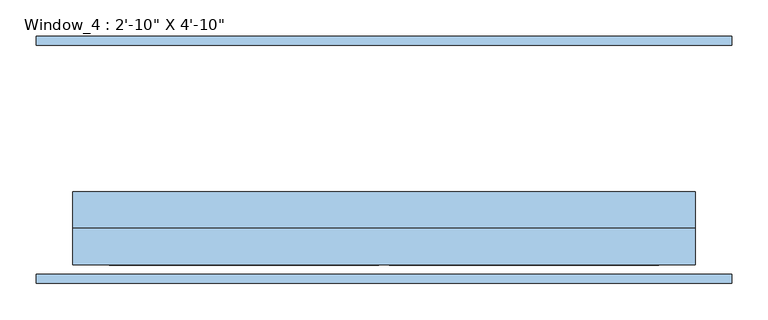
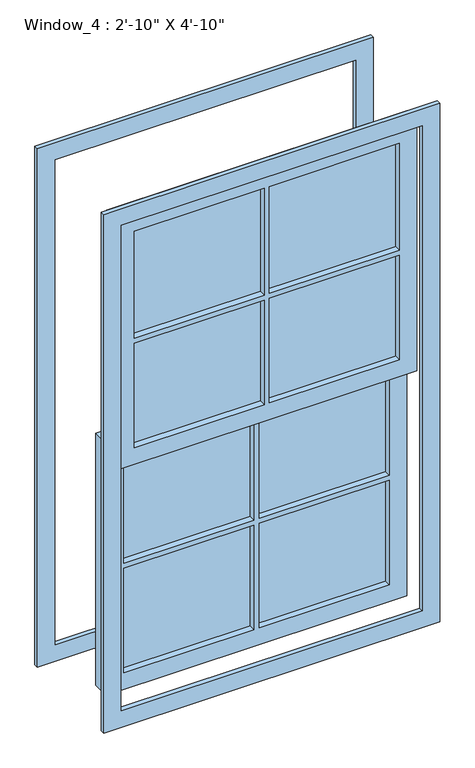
"""IFC4 building model written with IfcOpenShell, lengths in millimetres: window geometry."""

from ifc_helpers import new_model, si_unit, frame, origin, place, context, project, spatial, polyline, outline, extrude, source, transform, mapped, element, save


def window_1576a52d(model_context):
    return source(origin(), model_context, "Body", "SweptSolid", [
        extrude(outline(polyline([(2336.8, -431.8), (1577.975, -431.8), (1577.975, 431.8), (2336.8, 431.8), (2336.8, -431.8)]), holes=[polyline([(2286.0, 7.540625), (2286.0, 381.0), (1961.35625, 381.0), (1961.35625, 7.540625), (2286.0, 7.540625)]), polyline([(1628.775, 7.540625), (1946.275, 7.540625), (1946.275, 381.0), (1628.775, 381.0), (1628.775, 7.540625)]), polyline([(1961.35625, -381.0), (2286.0, -381.0), (2286.0, -7.540625), (1961.35625, -7.540625), (1961.35625, -381.0)]), polyline([(1628.775, -381.0), (1946.275, -381.0), (1946.275, -7.540625), (1628.775, -7.540625), (1628.775, -381.0)])]), frame((0.0, -146.05, 0.0), z_axis=(0.0, 1.0, 0.0), x_axis=(0.0, 0.0, 1.0)), (0.0, 0.0, 1.0), 50.8),
        extrude(outline(polyline([(381.0, -114.3), (381.0, -127.5853592), (7.540625, -127.5853592), (7.540625, -114.3), (381.0, -114.3)])), frame((0.0, 0.0, 1961.35625), z_axis=(0.0, 0.0, 1.0), x_axis=(1.0, 0.0, 0.0)), (0.0, 0.0, 1.0), 324.64375),
        extrude(outline(polyline([(-7.540625, -114.3), (-7.540625, -127.5853592), (-381.0, -127.5853592), (-381.0, -114.3), (-7.540625, -114.3)])), frame((0.0, 0.0, 1961.35625), z_axis=(0.0, 0.0, 1.0), x_axis=(1.0, 0.0, 0.0)), (0.0, 0.0, 1.0), 324.64375),
        extrude(outline(polyline([(381.0, -114.3), (381.0, -127.5853592), (7.540625, -127.5853592), (7.540625, -114.3), (381.0, -114.3)])), frame((0.0, 0.0, 1628.775), z_axis=(0.0, 0.0, 1.0), x_axis=(1.0, 0.0, 0.0)), (0.0, 0.0, 1.0), 317.5),
        extrude(outline(polyline([(-7.540625, -114.3), (-7.540625, -127.5853592), (-381.0, -127.5853592), (-381.0, -114.3), (-7.540625, -114.3)])), frame((0.0, 0.0, 1628.775), z_axis=(0.0, 0.0, 1.0), x_axis=(1.0, 0.0, 0.0)), (0.0, 0.0, 1.0), 317.5),
        extrude(outline(polyline([(7.540625, -76.2), (7.540625, -63.5), (381.0, -63.5), (381.0, -76.2), (7.540625, -76.2)])), frame((0.0, 0.0, 1246.98125), z_axis=(0.0, 0.0, 1.0), x_axis=(1.0, 0.0, 0.0)), (0.0, 0.0, 1.0), 330.99375),
        extrude(outline(polyline([(7.540625, -76.2), (7.540625, -63.5), (381.0, -63.5), (381.0, -76.2), (7.540625, -76.2)])), frame((0.0, 0.0, 914.4), z_axis=(0.0, 0.0, 1.0), x_axis=(1.0, 0.0, 0.0)), (0.0, 0.0, 1.0), 317.5),
        extrude(outline(polyline([(-381.0, -76.2), (-381.0, -63.5), (-7.540625, -63.5), (-7.540625, -76.2), (-381.0, -76.2)])), frame((0.0, 0.0, 1246.98125), z_axis=(0.0, 0.0, 1.0), x_axis=(1.0, 0.0, 0.0)), (0.0, 0.0, 1.0), 330.99375),
        extrude(outline(polyline([(-381.0, -76.2), (-381.0, -63.5), (-7.540625, -63.5), (-7.540625, -76.2), (-381.0, -76.2)])), frame((0.0, 0.0, 914.4), z_axis=(0.0, 0.0, 1.0), x_axis=(1.0, 0.0, 0.0)), (0.0, 0.0, 1.0), 317.5),
        extrude(outline(polyline([(1628.775, -431.8), (863.6, -431.8), (863.6, 431.8), (1628.775, 431.8), (1628.775, -431.8)]), holes=[polyline([(1246.98125, -381.0), (1577.975, -381.0), (1577.975, -7.540625), (1246.98125, -7.540625), (1246.98125, -381.0)]), polyline([(914.4, 7.540625), (1231.9, 7.540625), (1231.9, 381.0), (914.4, 381.0), (914.4, 7.540625)]), polyline([(914.4, -381.0), (1231.9, -381.0), (1231.9, -7.540625), (914.4, -7.540625), (914.4, -381.0)]), polyline([(1577.975, 7.540625), (1577.975, 381.0), (1246.98125, 381.0), (1246.98125, 7.540625), (1577.975, 7.540625)])]), frame((0.0, -95.25, 0.0), z_axis=(0.0, 1.0, 0.0), x_axis=(0.0, 0.0, 1.0)), (0.0, 0.0, 1.0), 50.8),
        extrude(outline(polyline([(812.8, 482.6), (2387.6, 482.6), (2387.6, -482.6), (812.8, -482.6), (812.8, 482.6)]), holes=[polyline([(863.6, 431.8), (863.6, -431.8), (2336.8, -431.8), (2336.8, 431.8), (863.6, 431.8)])]), frame((0.0, 158.75, 0.0), z_axis=(0.0, 1.0, 0.0), x_axis=(0.0, 0.0, 1.0)), (0.0, 0.0, 1.0), 12.7),
        extrude(outline(polyline([(812.8, 482.6), (2387.6, 482.6), (2387.6, -482.6), (812.8, -482.6), (812.8, 482.6)]), holes=[polyline([(863.6, 431.8), (863.6, -431.8), (2336.8, -431.8), (2336.8, 431.8), (863.6, 431.8)])]), frame((0.0, -171.45, 0.0), z_axis=(0.0, 1.0, 0.0), x_axis=(0.0, 0.0, 1.0)), (0.0, 0.0, 1.0), 12.7),
    ])


if __name__ == "__main__":
    model = new_model("IFC4")
    model_context = context("Model", 3, world=origin())
    ifc_project = project(units=[si_unit("LENGTHUNIT", "METRE", prefix="MILLI")], contexts=[model_context])
    site = spatial("IfcSite", under=ifc_project)
    building = spatial("IfcBuilding", under=site)
    placement = place(None, origin())
    window_shape = window_1576a52d(model_context)
    element("IfcWindow", 1, ObjectType="Window_4 : 2'-10\" X 4'-10\"", at=placement, inside=building, context=model_context, shape_type="MappedRepresentation", body=[
        mapped(window_shape, transform((0.0, 0.0, 0.0), x_axis=(1.0, 0.0, 0.0), y_axis=(0.0, 1.0, 0.0), z_axis=(0.0, 0.0, 1.0))),
    ])
    save(model, "model.ifc")
